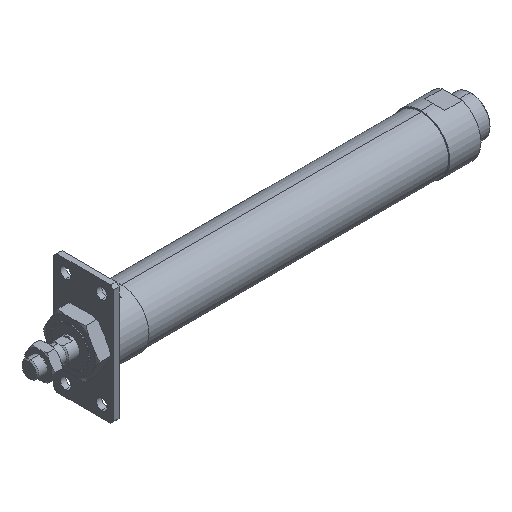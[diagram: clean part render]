
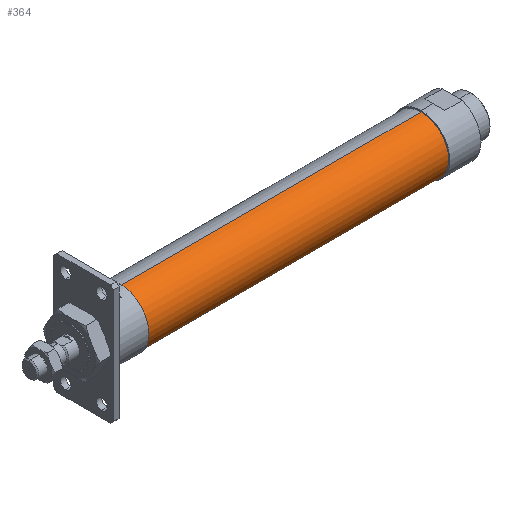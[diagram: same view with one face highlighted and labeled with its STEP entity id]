
A CAD part, isometric view. The second image highlights one B-rep face of the part: STEP entity #364.
In plain terms, the highlighted cylindrical face has radius 23 mm (diameter 46 mm), a partial arc.
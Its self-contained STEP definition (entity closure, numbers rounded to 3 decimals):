
#20 = DIRECTION ( 'NONE',  ( 0., 0., 1. ) ) ;
#40 = CARTESIAN_POINT ( 'NONE',  ( -1.784, 0., 0. ) ) ;
#80 = VECTOR ( 'NONE', #844, 1000. ) ;
#239 = DIRECTION ( 'NONE',  ( -1., 0., 0. ) ) ;
#271 = VECTOR ( 'NONE', #3817, 1000. ) ;
#313 = LINE ( 'NONE', #2703, #80 ) ;
#364 = ADVANCED_FACE ( 'NONE', ( #1763 ), #4188, .T. ) ;
#637 = ORIENTED_EDGE ( 'NONE', *, *, #1521, .T. ) ;
#794 = EDGE_LOOP ( 'NONE', ( #1560, #2921, #637, #4092 ) ) ;
#844 = DIRECTION ( 'NONE',  ( -1., 0., 0. ) ) ;
#850 = LINE ( 'NONE', #4126, #271 ) ;
#880 = EDGE_CURVE ( 'NONE', #2109, #1188, #3446, .T. ) ;
#1188 = VERTEX_POINT ( 'NONE', #1919 ) ;
#1314 = VERTEX_POINT ( 'NONE', #1679 ) ;
#1521 = EDGE_CURVE ( 'NONE', #1188, #4015, #850, .T. ) ;
#1558 = CARTESIAN_POINT ( 'NONE',  ( 76., 0., 0. ) ) ;
#1560 = ORIENTED_EDGE ( 'NONE', *, *, #3088, .F. ) ;
#1679 = CARTESIAN_POINT ( 'NONE',  ( 76., 0., -23. ) ) ;
#1728 = CIRCLE ( 'NONE', #3850, 23. ) ;
#1763 = FACE_OUTER_BOUND ( 'NONE', #794, .T. ) ;
#1919 = CARTESIAN_POINT ( 'NONE',  ( 327., 0., 23. ) ) ;
#2040 = DIRECTION ( 'NONE',  ( 0., 0., 1. ) ) ;
#2102 = CARTESIAN_POINT ( 'NONE',  ( 327., 0., 0. ) ) ;
#2109 = VERTEX_POINT ( 'NONE', #3086 ) ;
#2119 = DIRECTION ( 'NONE',  ( 0., 0., 1. ) ) ;
#2703 = CARTESIAN_POINT ( 'NONE',  ( -1.784, 0., -23. ) ) ;
#2873 = DIRECTION ( 'NONE',  ( -1., 0., 0. ) ) ;
#2921 = ORIENTED_EDGE ( 'NONE', *, *, #880, .T. ) ;
#2956 = AXIS2_PLACEMENT_3D ( 'NONE', #2102, #239, #20 ) ;
#2998 = DIRECTION ( 'NONE',  ( -1., 0., 0. ) ) ;
#3086 = CARTESIAN_POINT ( 'NONE',  ( 327., 0., -23. ) ) ;
#3088 = EDGE_CURVE ( 'NONE', #2109, #1314, #313, .T. ) ;
#3221 = AXIS2_PLACEMENT_3D ( 'NONE', #40, #2873, #2119 ) ;
#3446 = CIRCLE ( 'NONE', #2956, 23. ) ;
#3817 = DIRECTION ( 'NONE',  ( -1., 0., 0. ) ) ;
#3824 = CARTESIAN_POINT ( 'NONE',  ( 76., 0., 23. ) ) ;
#3850 = AXIS2_PLACEMENT_3D ( 'NONE', #1558, #2998, #2040 ) ;
#4015 = VERTEX_POINT ( 'NONE', #3824 ) ;
#4078 = EDGE_CURVE ( 'NONE', #1314, #4015, #1728, .T. ) ;
#4092 = ORIENTED_EDGE ( 'NONE', *, *, #4078, .F. ) ;
#4126 = CARTESIAN_POINT ( 'NONE',  ( -1.784, 0., 23. ) ) ;
#4188 = CYLINDRICAL_SURFACE ( 'NONE', #3221, 23. ) ;
